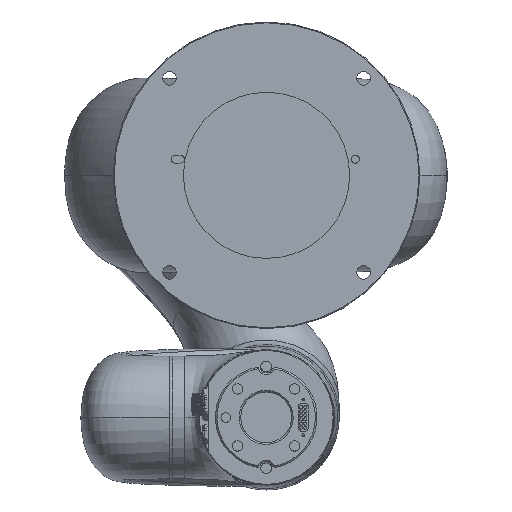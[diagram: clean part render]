
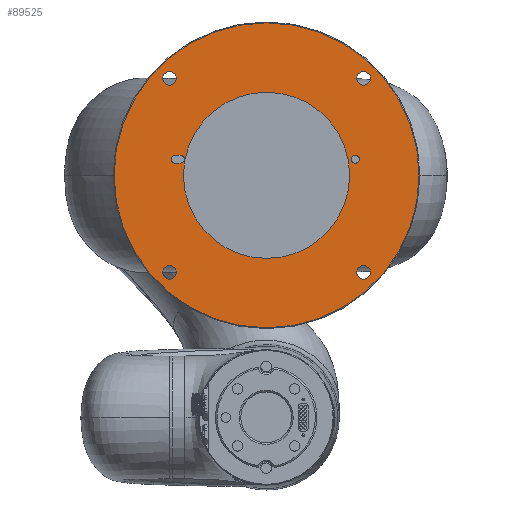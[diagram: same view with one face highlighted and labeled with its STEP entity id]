
A CAD part, front view. The second image highlights one B-rep face of the part: STEP entity #89525.
In plain terms, the highlighted planar face has unit normal (0, -1, 0).
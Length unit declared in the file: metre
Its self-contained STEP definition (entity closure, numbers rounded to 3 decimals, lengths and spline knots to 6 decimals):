
#2174 = EDGE_CURVE ( 'NONE', #62408, #62408, #107676, .T. ) ;
#3493 = EDGE_CURVE ( 'NONE', #58322, #58322, #44194, .T. ) ;
#4661 = DIRECTION ( 'NONE',  ( -0.144, 0., 0.99 ) ) ;
#5420 = CARTESIAN_POINT ( 'NONE',  ( -0.071137, 0.11448, -0.029236 ) ) ;
#7185 = CARTESIAN_POINT ( 'NONE',  ( -0.120201, 0.11448, -0.040013 ) ) ;
#9318 = EDGE_LOOP ( 'NONE', ( #109049 ) ) ;
#9371 = ORIENTED_EDGE ( 'NONE', *, *, #3493, .T. ) ;
#9444 = EDGE_CURVE ( 'NONE', #101525, #69101, #39899, .T. ) ;
#9977 = EDGE_CURVE ( 'NONE', #36750, #36750, #102056, .T. ) ;
#10627 = VERTEX_POINT ( 'NONE', #104483 ) ;
#11182 = EDGE_LOOP ( 'NONE', ( #76027 ) ) ;
#13169 = DIRECTION ( 'NONE',  ( -0.144, 0., 0.99 ) ) ;
#15552 = AXIS2_PLACEMENT_3D ( 'NONE', #110768, #67738, #76401 ) ;
#16410 = CARTESIAN_POINT ( 'NONE',  ( -0.018544, 0.11448, 0.096244 ) ) ;
#16798 = EDGE_LOOP ( 'NONE', ( #54465 ) ) ;
#17397 = CARTESIAN_POINT ( 'NONE',  ( -0.076784, 0.11448, 0.079079 ) ) ;
#18517 = AXIS2_PLACEMENT_3D ( 'NONE', #107864, #20728, #13169 ) ;
#19157 = VERTEX_POINT ( 'NONE', #50576 ) ;
#19283 = CARTESIAN_POINT ( 'NONE',  ( -0.001244, 0.11448, -0.022713 ) ) ;
#19525 = AXIS2_PLACEMENT_3D ( 'NONE', #7185, #40368, #84110 ) ;
#20386 = ORIENTED_EDGE ( 'NONE', *, *, #57532, .T. ) ;
#20728 = DIRECTION ( 'NONE',  ( 0., 1., 0. ) ) ;
#21746 = FACE_BOUND ( 'NONE', #16798, .T. ) ;
#25079 = DIRECTION ( 'NONE',  ( 0.144, 0., -0.99 ) ) ;
#25738 = VECTOR ( 'NONE', #36678, 1. ) ;
#26132 = AXIS2_PLACEMENT_3D ( 'NONE', #70487, #28192, #79517 ) ;
#26401 = DIRECTION ( 'NONE',  ( -0.144, 0., 0.99 ) ) ;
#27479 = ORIENTED_EDGE ( 'NONE', *, *, #89149, .T. ) ;
#28124 = EDGE_CURVE ( 'NONE', #69101, #10627, #44622, .T. ) ;
#28192 = DIRECTION ( 'NONE',  ( 0., 1., 0. ) ) ;
#28753 = CARTESIAN_POINT ( 'NONE',  ( -0.076795, 0.11448, 0.027036 ) ) ;
#29143 = ORIENTED_EDGE ( 'NONE', *, *, #9444, .T. ) ;
#30319 = EDGE_CURVE ( 'NONE', #34985, #101525, #58098, .T. ) ;
#33946 = VERTEX_POINT ( 'NONE', #41895 ) ;
#33955 = CARTESIAN_POINT ( 'NONE',  ( -0.136889, 0.11448, 0.074738 ) ) ;
#34985 = VERTEX_POINT ( 'NONE', #37564 ) ;
#36640 = VERTEX_POINT ( 'NONE', #69429 ) ;
#36678 = DIRECTION ( 'NONE',  ( 0.144, 0., -0.99 ) ) ;
#36750 = VERTEX_POINT ( 'NONE', #68683 ) ;
#37564 = CARTESIAN_POINT ( 'NONE',  ( -0.069095, 0.11448, -0.025907 ) ) ;
#38653 = CARTESIAN_POINT ( 'NONE',  ( -0.069373, 0.11448, 0.028115 ) ) ;
#39899 = CIRCLE ( 'NONE', #61614, 0.0025 ) ;
#40368 = DIRECTION ( 'NONE',  ( 0., 1., 0. ) ) ;
#41895 = CARTESIAN_POINT ( 'NONE',  ( -0.11959, 0.11448, -0.044219 ) ) ;
#42397 = DIRECTION ( 'NONE',  ( 0., 1., 0. ) ) ;
#43449 = AXIS2_PLACEMENT_3D ( 'NONE', #16410, #42397, #25079 ) ;
#44194 = CIRCLE ( 'NONE', #26132, 0.00425 ) ;
#44622 = LINE ( 'NONE', #103746, #79712 ) ;
#44660 = FACE_BOUND ( 'NONE', #60659, .T. ) ;
#46402 = AXIS2_PLACEMENT_3D ( 'NONE', #19283, #96185, #87859 ) ;
#46712 = DIRECTION ( 'NONE',  ( 0., 1., 0. ) ) ;
#48839 = PLANE ( 'NONE',  #83656 ) ;
#49396 = EDGE_LOOP ( 'NONE', ( #93384 ) ) ;
#50576 = CARTESIAN_POINT ( 'NONE',  ( -0.087544, 0.11448, 0.083578 ) ) ;
#50730 = CIRCLE ( 'NONE', #76953, 0.0515 ) ;
#52800 = FACE_OUTER_BOUND ( 'NONE', #49396, .T. ) ;
#54465 = ORIENTED_EDGE ( 'NONE', *, *, #9977, .T. ) ;
#55491 = FACE_BOUND ( 'NONE', #88153, .T. ) ;
#56201 = DIRECTION ( 'NONE',  ( -0.144, 0., 0.99 ) ) ;
#56373 = DIRECTION ( 'NONE',  ( 0., -1., 0. ) ) ;
#57532 = EDGE_CURVE ( 'NONE', #19157, #19157, #109259, .T. ) ;
#57683 = EDGE_CURVE ( 'NONE', #33946, #33946, #66031, .T. ) ;
#58098 = LINE ( 'NONE', #28753, #25738 ) ;
#58234 = FACE_BOUND ( 'NONE', #61423, .T. ) ;
#58322 = VERTEX_POINT ( 'NONE', #33955 ) ;
#60659 = EDGE_LOOP ( 'NONE', ( #87498 ) ) ;
#61423 = EDGE_LOOP ( 'NONE', ( #9371 ) ) ;
#61614 = AXIS2_PLACEMENT_3D ( 'NONE', #5420, #82341, #4661 ) ;
#62408 = VERTEX_POINT ( 'NONE', #65711 ) ;
#65711 = CARTESIAN_POINT ( 'NONE',  ( -0.017933, 0.11448, 0.092038 ) ) ;
#66031 = CIRCLE ( 'NONE', #19525, 0.00425 ) ;
#67738 = DIRECTION ( 'NONE',  ( 0., 1., 0. ) ) ;
#68683 = CARTESIAN_POINT ( 'NONE',  ( -0.000633, 0.11448, -0.026919 ) ) ;
#69101 = VERTEX_POINT ( 'NONE', #82924 ) ;
#69429 = CARTESIAN_POINT ( 'NONE',  ( -0.055773, 0.11448, -0.065401 ) ) ;
#70487 = CARTESIAN_POINT ( 'NONE',  ( -0.137501, 0.11448, 0.078944 ) ) ;
#71788 = CIRCLE ( 'NONE', #15552, 0.0945 ) ;
#72021 = DIRECTION ( 'NONE',  ( -0.144, 0., 0.99 ) ) ;
#73528 = CARTESIAN_POINT ( 'NONE',  ( -0.068663, 0.11448, -0.028876 ) ) ;
#76027 = ORIENTED_EDGE ( 'NONE', *, *, #2174, .T. ) ;
#76401 = DIRECTION ( 'NONE',  ( 0.144, 0., -0.99 ) ) ;
#76953 = AXIS2_PLACEMENT_3D ( 'NONE', #98409, #46712, #72021 ) ;
#78457 = VERTEX_POINT ( 'NONE', #17397 ) ;
#79517 = DIRECTION ( 'NONE',  ( 0.144, 0., -0.99 ) ) ;
#79712 = VECTOR ( 'NONE', #26401, 1. ) ;
#79749 = FACE_BOUND ( 'NONE', #11182, .T. ) ;
#82341 = DIRECTION ( 'NONE',  ( 0., 1., 0. ) ) ;
#82924 = CARTESIAN_POINT ( 'NONE',  ( -0.073611, 0.11448, -0.029595 ) ) ;
#83609 = ORIENTED_EDGE ( 'NONE', *, *, #30319, .T. ) ;
#83656 = AXIS2_PLACEMENT_3D ( 'NONE', #38653, #56373, #91446 ) ;
#84110 = DIRECTION ( 'NONE',  ( 0.144, 0., -0.99 ) ) ;
#85833 = EDGE_CURVE ( 'NONE', #36640, #36640, #71788, .T. ) ;
#87498 = ORIENTED_EDGE ( 'NONE', *, *, #100083, .T. ) ;
#87859 = DIRECTION ( 'NONE',  ( 0.144, 0., -0.99 ) ) ;
#88153 = EDGE_LOOP ( 'NONE', ( #93926, #27479, #83609, #29143 ) ) ;
#89149 = EDGE_CURVE ( 'NONE', #10627, #34985, #104145, .T. ) ;
#89525 = ADVANCED_FACE ( 'NONE', ( #55491, #97280, #58234, #79749, #21746, #90555, #44660, #52800 ), #48839, .T. ) ;
#90555 = FACE_BOUND ( 'NONE', #105167, .T. ) ;
#91446 = DIRECTION ( 'NONE',  ( -0.144, 0., 0.99 ) ) ;
#93384 = ORIENTED_EDGE ( 'NONE', *, *, #85833, .F. ) ;
#93926 = ORIENTED_EDGE ( 'NONE', *, *, #28124, .T. ) ;
#96185 = DIRECTION ( 'NONE',  ( 0., 1., 0. ) ) ;
#97280 = FACE_BOUND ( 'NONE', #9318, .T. ) ;
#98409 = CARTESIAN_POINT ( 'NONE',  ( -0.069373, 0.11448, 0.028115 ) ) ;
#100083 = EDGE_CURVE ( 'NONE', #78457, #78457, #50730, .T. ) ;
#100358 = CARTESIAN_POINT ( 'NONE',  ( -0.087184, 0.11448, 0.081104 ) ) ;
#101525 = VERTEX_POINT ( 'NONE', #73528 ) ;
#102056 = CIRCLE ( 'NONE', #46402, 0.00425 ) ;
#103746 = CARTESIAN_POINT ( 'NONE',  ( -0.081743, 0.11448, 0.026316 ) ) ;
#104145 = CIRCLE ( 'NONE', #18517, 0.0025 ) ;
#104483 = CARTESIAN_POINT ( 'NONE',  ( -0.074043, 0.11448, -0.026627 ) ) ;
#105167 = EDGE_LOOP ( 'NONE', ( #20386 ) ) ;
#107676 = CIRCLE ( 'NONE', #43449, 0.00425 ) ;
#107864 = CARTESIAN_POINT ( 'NONE',  ( -0.071569, 0.11448, -0.026267 ) ) ;
#107931 = DIRECTION ( 'NONE',  ( 0., 1., 0. ) ) ;
#108427 = AXIS2_PLACEMENT_3D ( 'NONE', #100358, #107931, #56201 ) ;
#109049 = ORIENTED_EDGE ( 'NONE', *, *, #57683, .T. ) ;
#109259 = CIRCLE ( 'NONE', #108427, 0.0025 ) ;
#110768 = CARTESIAN_POINT ( 'NONE',  ( -0.069373, 0.11448, 0.028115 ) ) ;
